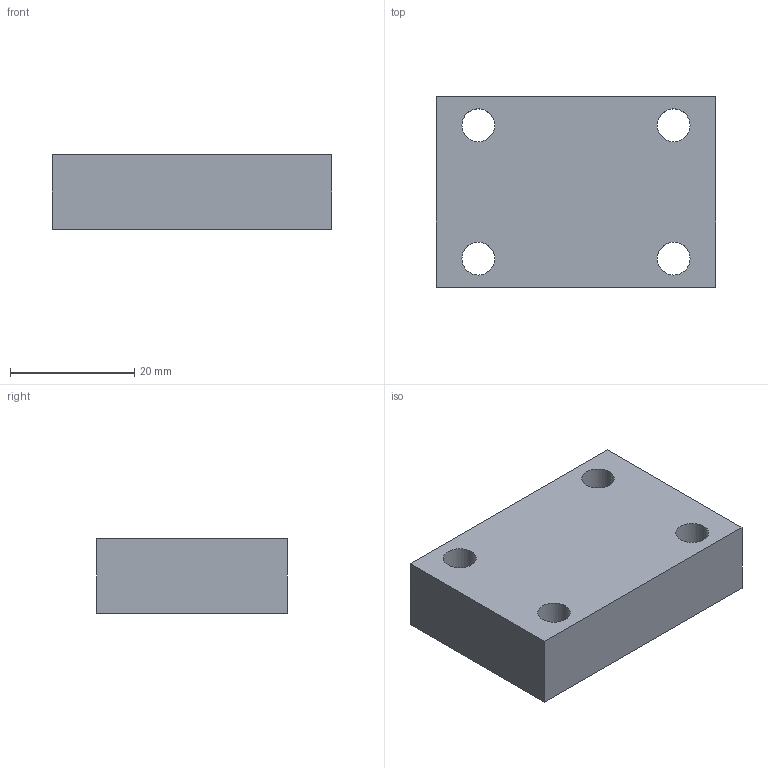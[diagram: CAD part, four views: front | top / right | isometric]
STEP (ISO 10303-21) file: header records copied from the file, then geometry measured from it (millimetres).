
FILE_DESCRIPTION(('Mechanical CAD reference from nasji.com'),'2;1');
FILE_NAME('NASJI.step','',(''),(''),'','NASJI distribution','');
FILE_SCHEMA(('AUTOMOTIVE_DESIGN { 1 0 10303 214 1 1 1 1 }'));
Length unit declared in the file: millimetre
Products named in the file (1): Open CASCADE STEP translator 7.8 95
Bounding box: 45 x 30.7 x 12 mm (x, y, z)
Volume: 15519 mm3; surface area: 5202.5 mm2
Topology: 1 solids, 1 shells, 10 faces, 24 edges, 16 vertices
Faces by surface type: plane 6, cylinder 4
Full cylindrical faces by diameter (mm): 5.3 x4
Entity records: 658 total; most frequent: CARTESIAN_POINT 147, DIRECTION 94, LINE 56, VECTOR 56, ORIENTED_EDGE 48, PCURVE 48, DEFINITIONAL_REPRESENTATION 48, EDGE_CURVE 24
